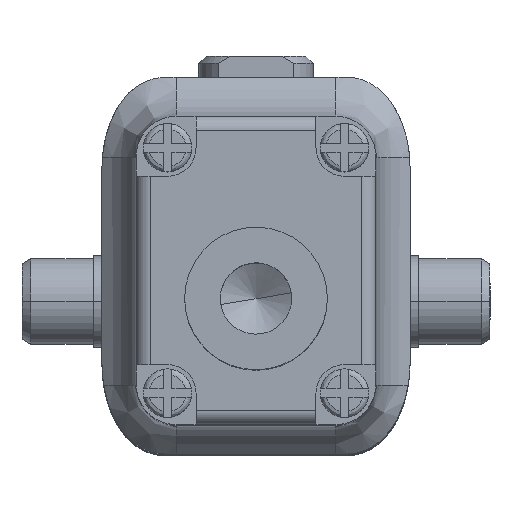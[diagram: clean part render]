
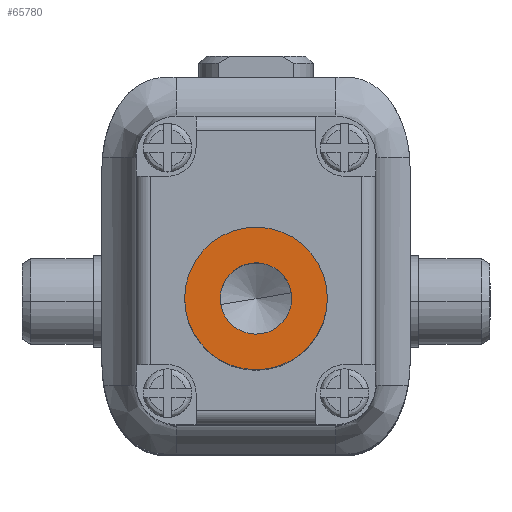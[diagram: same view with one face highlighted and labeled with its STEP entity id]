
A CAD part, top view. The second image highlights one B-rep face of the part: STEP entity #65780.
In plain terms, the highlighted planar face has unit normal (0, 0, 1) as drawn and (0, 0, -1) by its records, which use the part's own axes.
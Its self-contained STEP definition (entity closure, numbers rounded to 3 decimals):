
#137 = DIRECTION ( 'NONE',  ( 0., 0., 1. ) ) ;
#2725 = EDGE_LOOP ( 'NONE', ( #24008, #45366 ) ) ;
#4831 = AXIS2_PLACEMENT_3D ( 'NONE', #24578, #13352, #53455 ) ;
#6643 = AXIS2_PLACEMENT_3D ( 'NONE', #39085, #16362, #15618 ) ;
#7424 = FACE_BOUND ( 'NONE', #2725, .T. ) ;
#9777 = VERTEX_POINT ( 'NONE', #56090 ) ;
#11156 = AXIS2_PLACEMENT_3D ( 'NONE', #29324, #137, #29069 ) ;
#11445 = ORIENTED_EDGE ( 'NONE', *, *, #13470, .F. ) ;
#13352 = DIRECTION ( 'NONE',  ( 0., 0., 1. ) ) ;
#13470 = EDGE_CURVE ( 'NONE', #9777, #34222, #51180, .T. ) ;
#15618 = DIRECTION ( 'NONE',  ( -1., 0., 0. ) ) ;
#16362 = DIRECTION ( 'NONE',  ( 0., 0., -1. ) ) ;
#18585 = EDGE_LOOP ( 'NONE', ( #45904, #11445 ) ) ;
#19137 = AXIS2_PLACEMENT_3D ( 'NONE', #33157, #68096, #73962 ) ;
#19896 = VERTEX_POINT ( 'NONE', #24568 ) ;
#21678 = CARTESIAN_POINT ( 'NONE',  ( 0., 0., 0. ) ) ;
#22648 = EDGE_CURVE ( 'NONE', #34222, #9777, #33643, .T. ) ;
#23002 = FACE_OUTER_BOUND ( 'NONE', #18585, .T. ) ;
#24008 = ORIENTED_EDGE ( 'NONE', *, *, #44921, .F. ) ;
#24568 = CARTESIAN_POINT ( 'NONE',  ( 1.25, 0., 0. ) ) ;
#24578 = CARTESIAN_POINT ( 'NONE',  ( 0., 0., 0. ) ) ;
#29069 = DIRECTION ( 'NONE',  ( -1., 0., 0. ) ) ;
#29324 = CARTESIAN_POINT ( 'NONE',  ( 0., 0., 0. ) ) ;
#32507 = CIRCLE ( 'NONE', #65773, 1.25 ) ;
#32638 = CARTESIAN_POINT ( 'NONE',  ( -2.5, 0., 0. ) ) ;
#33157 = CARTESIAN_POINT ( 'NONE',  ( 0., 0., 0. ) ) ;
#33643 = CIRCLE ( 'NONE', #11156, 2.5 ) ;
#34222 = VERTEX_POINT ( 'NONE', #32638 ) ;
#39085 = CARTESIAN_POINT ( 'NONE',  ( 0., 0., 0. ) ) ;
#44921 = EDGE_CURVE ( 'NONE', #52399, #19896, #32507, .T. ) ;
#45366 = ORIENTED_EDGE ( 'NONE', *, *, #47998, .F. ) ;
#45904 = ORIENTED_EDGE ( 'NONE', *, *, #22648, .F. ) ;
#47998 = EDGE_CURVE ( 'NONE', #19896, #52399, #72002, .T. ) ;
#51180 = CIRCLE ( 'NONE', #19137, 2.5 ) ;
#52399 = VERTEX_POINT ( 'NONE', #57142 ) ;
#53455 = DIRECTION ( 'NONE',  ( 1., 0., 0. ) ) ;
#56090 = CARTESIAN_POINT ( 'NONE',  ( 2.5, 0., 0. ) ) ;
#57142 = CARTESIAN_POINT ( 'NONE',  ( -1.25, 0., 0. ) ) ;
#60312 = PLANE ( 'NONE',  #4831 ) ;
#65773 = AXIS2_PLACEMENT_3D ( 'NONE', #21678, #73502, #67636 ) ;
#65780 = ADVANCED_FACE ( 'NONE', ( #23002, #7424 ), #60312, .F. ) ;
#67636 = DIRECTION ( 'NONE',  ( -1., 0., 0. ) ) ;
#68096 = DIRECTION ( 'NONE',  ( 0., 0., 1. ) ) ;
#72002 = CIRCLE ( 'NONE', #6643, 1.25 ) ;
#73502 = DIRECTION ( 'NONE',  ( 0., 0., -1. ) ) ;
#73962 = DIRECTION ( 'NONE',  ( -1., 0., 0. ) ) ;
